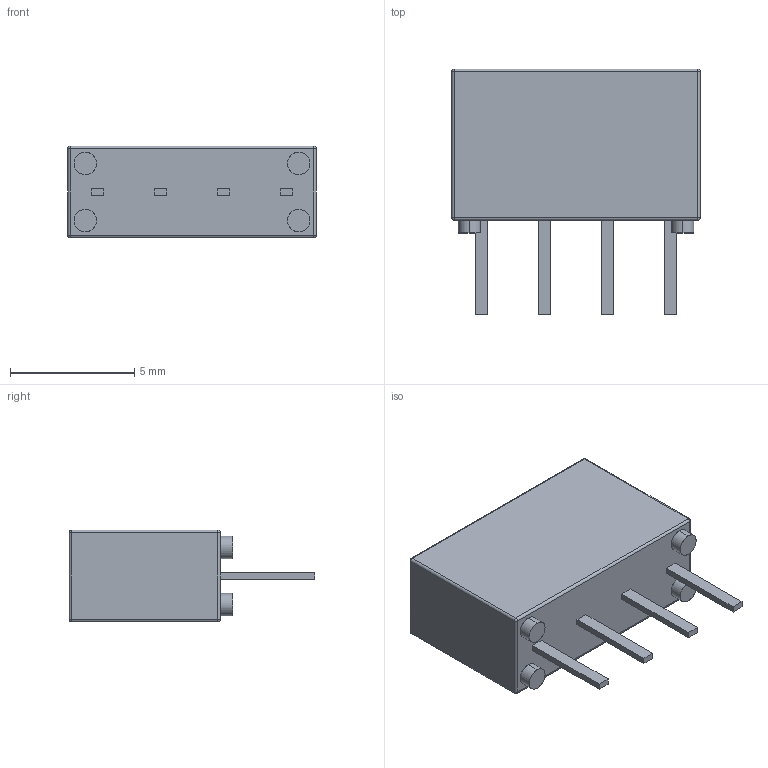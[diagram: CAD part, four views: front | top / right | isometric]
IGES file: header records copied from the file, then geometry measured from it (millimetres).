
Start section: SolidWorks IGES file using analytic representation for surfaces
Global section: file name: T:\Relays in Solidworks\Batch 1\111P-1-A.IGS; native system: SolidWorks 2009; preprocessor: SolidWorks 2009; author: alex.leming; date: 100629.115800; units: millimetre
Bounding box: 10 x 9.9 x 3.7 mm (x, y, z)
Surface area: 266.5 mm2 (no closed solid volume)
Topology: 0 solids, 0 shells, 381 faces, 2946 edges, 2938 vertices
Faces by surface type: bspline 351, revolution 30
